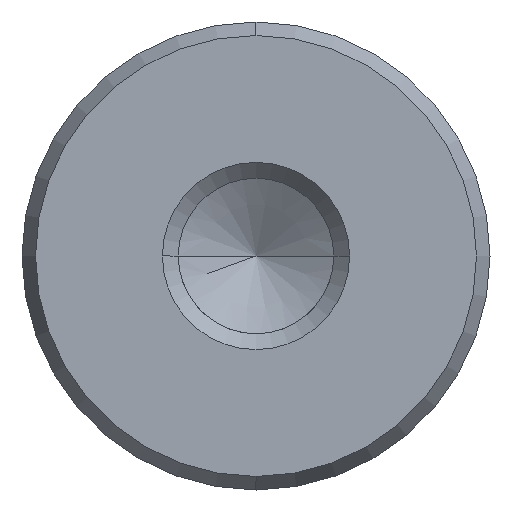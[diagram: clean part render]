
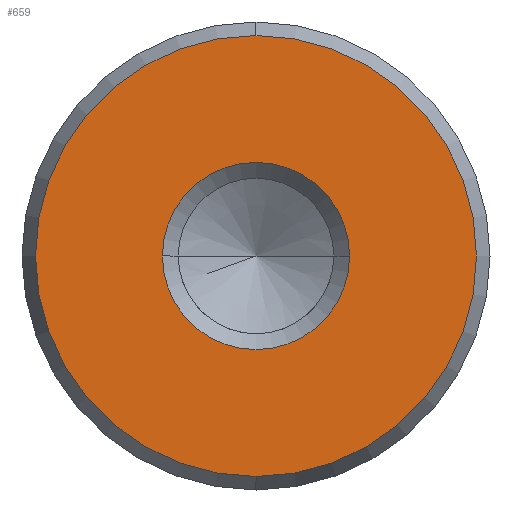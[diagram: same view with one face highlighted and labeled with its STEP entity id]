
A CAD part, left-side view. The second image highlights one B-rep face of the part: STEP entity #659.
In plain terms, the highlighted planar face has unit normal (-1, 0, 0).
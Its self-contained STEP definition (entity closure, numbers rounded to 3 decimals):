
#573=CARTESIAN_POINT('Vertex',(0.,0.,-9.423)) ;
#576=CARTESIAN_POINT('Axis2P3D Location',(0.,0.,0.)) ;
#580=CARTESIAN_POINT('Vertex',(0.,9.423,0.)) ;
#583=CARTESIAN_POINT('Axis2P3D Location',(0.,0.,0.)) ;
#587=CARTESIAN_POINT('Vertex',(0.,0.,9.423)) ;
#609=CARTESIAN_POINT('Axis2P3D Location',(0.,0.,0.)) ;
#613=CARTESIAN_POINT('Vertex',(0.,-9.423,0.)) ;
#616=CARTESIAN_POINT('Axis2P3D Location',(0.,0.,0.)) ;
#630=CARTESIAN_POINT('Axis2P3D Location',(0.,0.,0.)) ;
#641=CARTESIAN_POINT('Axis2P3D Location',(0.,0.,0.)) ;
#645=CARTESIAN_POINT('Vertex',(0.,4.,0.)) ;
#647=CARTESIAN_POINT('Vertex',(0.,-4.,0.)) ;
#650=CARTESIAN_POINT('Axis2P3D Location',(0.,0.,0.)) ;
#577=DIRECTION('Axis2P3D Direction',(1.,0.,-0.)) ;
#584=DIRECTION('Axis2P3D Direction',(1.,0.,-0.)) ;
#610=DIRECTION('Axis2P3D Direction',(1.,0.,-0.)) ;
#617=DIRECTION('Axis2P3D Direction',(1.,0.,-0.)) ;
#631=DIRECTION('Axis2P3D Direction',(1.,0.,-0.)) ;
#632=DIRECTION('Axis2P3D XDirection',(-0.,0.,-1.)) ;
#642=DIRECTION('Axis2P3D Direction',(1.,0.,-0.)) ;
#651=DIRECTION('Axis2P3D Direction',(1.,0.,-0.)) ;
#578=AXIS2_PLACEMENT_3D('Circle Axis2P3D',#576,#577,$) ;
#585=AXIS2_PLACEMENT_3D('Circle Axis2P3D',#583,#584,$) ;
#611=AXIS2_PLACEMENT_3D('Circle Axis2P3D',#609,#610,$) ;
#618=AXIS2_PLACEMENT_3D('Circle Axis2P3D',#616,#617,$) ;
#633=AXIS2_PLACEMENT_3D('Plane Axis2P3D',#630,#631,#632) ;
#643=AXIS2_PLACEMENT_3D('Circle Axis2P3D',#641,#642,$) ;
#652=AXIS2_PLACEMENT_3D('Circle Axis2P3D',#650,#651,$) ;
#636=ORIENTED_EDGE('',*,*,#582,.F.) ;
#637=ORIENTED_EDGE('',*,*,#620,.F.) ;
#638=ORIENTED_EDGE('',*,*,#615,.F.) ;
#639=ORIENTED_EDGE('',*,*,#589,.F.) ;
#656=ORIENTED_EDGE('',*,*,#649,.T.) ;
#657=ORIENTED_EDGE('',*,*,#654,.T.) ;
#658=FACE_BOUND('',#655,.T.) ;
#659=ADVANCED_FACE('720-20x112',(#640,#658),#634,.F.) ;
#579=CIRCLE('generated circle',#578,9.423) ;
#586=CIRCLE('generated circle',#585,9.423) ;
#612=CIRCLE('generated circle',#611,9.423) ;
#619=CIRCLE('generated circle',#618,9.423) ;
#644=CIRCLE('generated circle',#643,4.) ;
#653=CIRCLE('generated circle',#652,4.) ;
#582=EDGE_CURVE('',#574,#581,#579,.T.) ;
#589=EDGE_CURVE('',#581,#588,#586,.T.) ;
#615=EDGE_CURVE('',#588,#614,#612,.T.) ;
#620=EDGE_CURVE('',#614,#574,#619,.T.) ;
#649=EDGE_CURVE('',#646,#648,#644,.T.) ;
#654=EDGE_CURVE('',#648,#646,#653,.T.) ;
#635=EDGE_LOOP('',(#636,#637,#638,#639)) ;
#655=EDGE_LOOP('',(#656,#657)) ;
#640=FACE_OUTER_BOUND('',#635,.T.) ;
#634=PLANE('Plane',#633) ;
#574=VERTEX_POINT('',#573) ;
#581=VERTEX_POINT('',#580) ;
#588=VERTEX_POINT('',#587) ;
#614=VERTEX_POINT('',#613) ;
#646=VERTEX_POINT('',#645) ;
#648=VERTEX_POINT('',#647) ;
